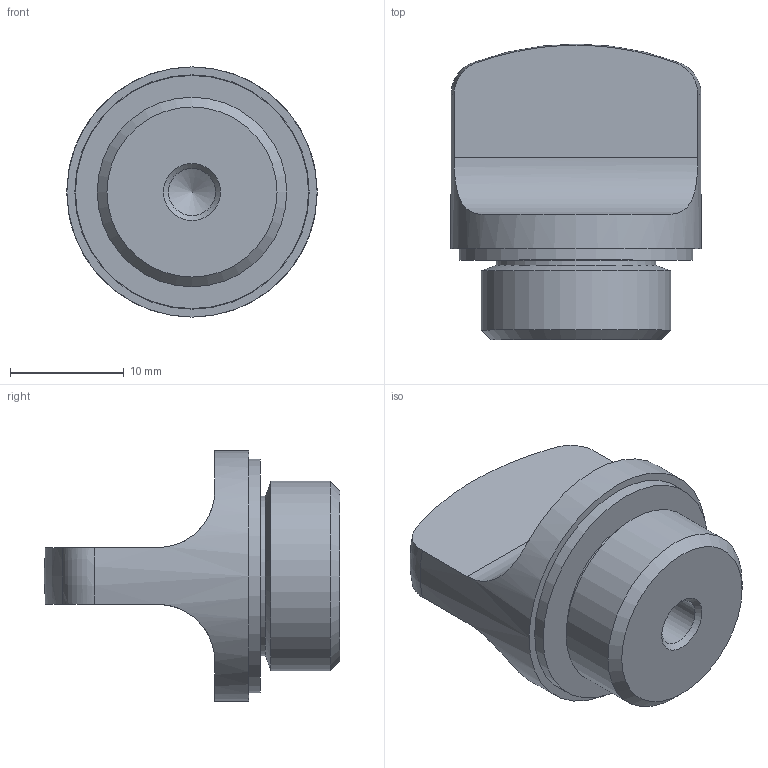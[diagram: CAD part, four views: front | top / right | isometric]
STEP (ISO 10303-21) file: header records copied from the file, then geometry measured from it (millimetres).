
FILE_DESCRIPTION( ( 'STEP AP203' ), '1' );
FILE_NAME( 'C:/Temp/Ganter_Step_05_03_2020/data/3_5/gn441/Threaded plug GN 441-22-G3_8-1-BL.stp', '2020-03-12T13:34:48', ( 'License CC BY-ND 4.0' ), ( 'CADENAS' ), ' ', 'PARTsolutions', ' ' );
FILE_SCHEMA( ( 'CONFIG_CONTROL_DESIGN' ) );
Length unit declared in the file: millimetre
Products named in the file (1): _Threaded plug GN 441-22-G3/8-1-BL
Bounding box: 22 x 26 x 22 mm (x, y, z)
Volume: 4457.9 mm3; surface area: 2717.5 mm2
Topology: 1 solids, 1 shells, 29 faces, 63 edges, 41 vertices
Faces by surface type: cylinder 11, plane 11, cone 4, torus 2, sphere 1
Full cylindrical faces by diameter (mm): 4.134 x1, 14 x1, 14.5 x1, 16.662 x1, 18.5 x1, 18.6 x1, 20.5 x1, 20.6 x1, 22 x1
Entity records: 820 total; most frequent: CARTESIAN_POINT 218, DIRECTION 122, ORIENTED_EDGE 86, AXIS2_PLACEMENT_3D 57, EDGE_LOOP 48, EDGE_CURVE 43, FACE_OUTER_BOUND 38, VERTEX_POINT 37
